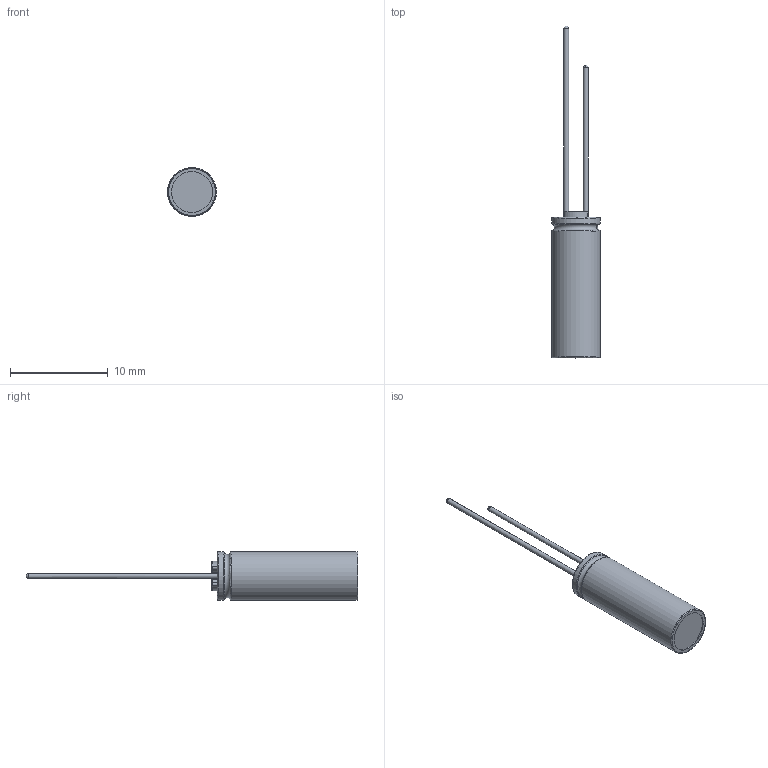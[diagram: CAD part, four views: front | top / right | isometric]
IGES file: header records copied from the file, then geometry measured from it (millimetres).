
Start section: JAMA-IS VERSION  1.0
Bounding box: 4.99 x 34 x 5 mm (x, y, z)
Surface area: 791 mm2 (no closed solid volume)
Topology: 0 solids, 0 shells, 79 faces, 971 edges, 960 vertices
Faces by surface type: bspline 79
